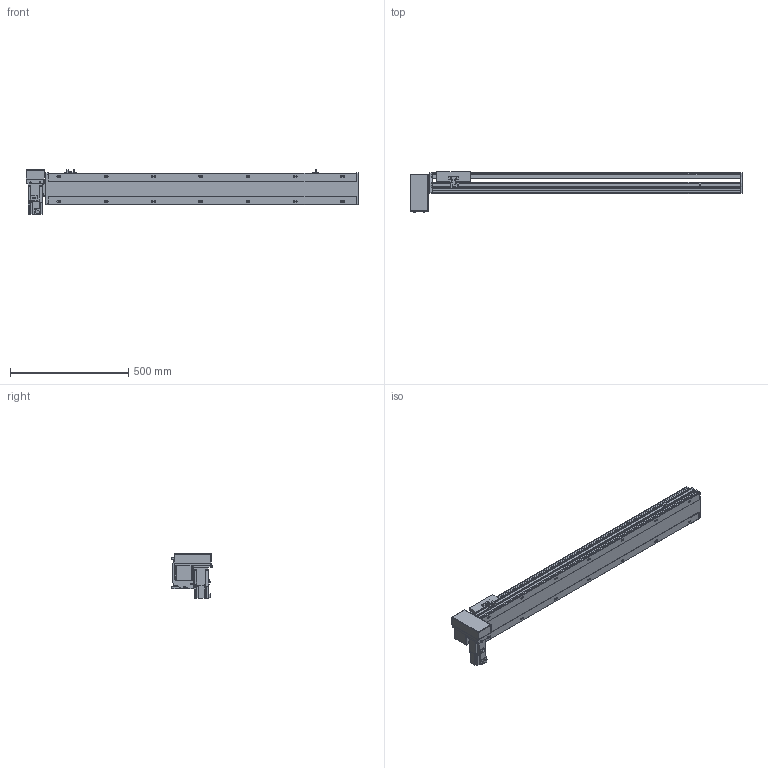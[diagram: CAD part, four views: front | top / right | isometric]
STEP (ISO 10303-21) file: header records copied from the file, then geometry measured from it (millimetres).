
FILE_DESCRIPTION(/* description */ ('STEP AP214'),/* implementation_level */ '2;1');
FILE_NAME(/* name */ 'PBS140S-P40-S1050-RD-T40-C1-N(0)',/* time_stamp */ '2022-06-09T02:43:07+02:00',/* author */ ('License CC BY-ND 4.0'),/* organization */ ('CADENAS'),/* preprocessor_version */ 'ST-DEVELOPER v18.102',/* originating_system */ 'PARTsolutions',/* authorisation */ ' ');
FILE_SCHEMA (('AUTOMOTIVE_DESIGN {1 0 10303 214 3 1 1}'));
Length unit declared in the file: millimetre
Products named in the file (7): PBS140S-P40-S1050-RD-T40-C1-N(0); PBS140S_sensor; PBS140S_plant; PBS140S_sliser; T40-p1; PBS140ST-RD_motors; PBS140S-S1050()_body
Assembly tree (8 placements, depth 2):
  PBS140S-P40-S1050-RD-T40-C1-N(0)
    PBS140S_sensor  x3
    PBS140S_plant
    PBS140S_sliser
    T40-p1
    PBS140ST-RD_motors
    PBS140S-S1050()_body
Bounding box: 1404 x 172.5 x 189.7 mm (x, y, z)
Volume: 7268613.4 mm3; surface area: 1255754.8 mm2
Topology: 8 solids, 8 shells, 1083 faces, 2871 edges, 1879 vertices
Faces by surface type: plane 696, cylinder 337, cone 40, sphere 8, torus 2
Full cylindrical faces by diameter (mm): 3.242 x4, 4 x2, 4.134 x4, 4.4 x8, 4.5 x2, 4.8 x4, 4.917 x22, 5.5 x7, 6 x2, 7 x16, 7.5 x8, 8 x12, 8.5 x4, 10.5 x14, 14 x1, 30 x2, 50 x2
Entity records: 31038 total; most frequent: CARTESIAN_POINT 5704, DIRECTION 5278, ORIENTED_EDGE 5002, EDGE_CURVE 2501, AXIS2_PLACEMENT_3D 1829, VERTEX_POINT 1729, LINE 1620, VECTOR 1620
